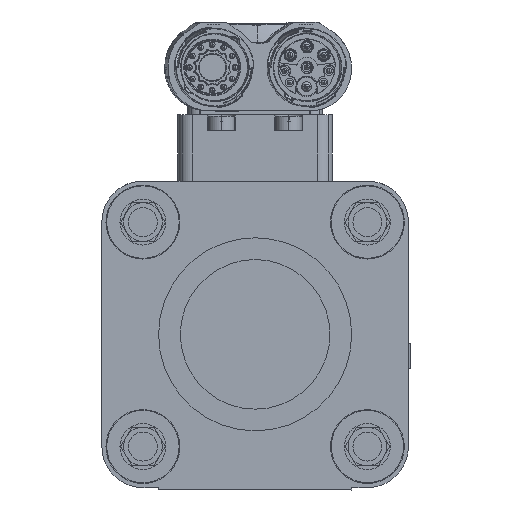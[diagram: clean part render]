
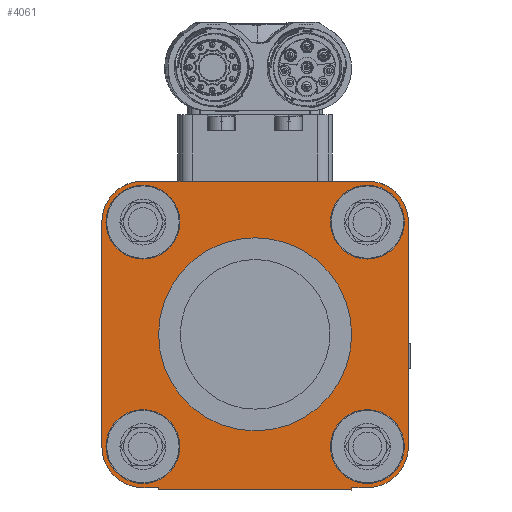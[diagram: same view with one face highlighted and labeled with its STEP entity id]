
A CAD part, left-side view. The second image highlights one B-rep face of the part: STEP entity #4061.
In plain terms, the highlighted planar face has unit normal (-1, 0, 0) as drawn and (0, 0, 1) by its records, which use the part's own axes.
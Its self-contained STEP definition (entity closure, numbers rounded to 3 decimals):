
#4061=ADVANCED_FACE('10:20',(#9207,#9208,#9209,#9210,#9211,#9212),#9213,.T.);
#9207=FACE_BOUND('',#23878,.T.);
#9208=FACE_BOUND('',#23879,.T.);
#9209=FACE_BOUND('',#23880,.T.);
#9210=FACE_BOUND('',#23881,.T.);
#9211=FACE_BOUND('',#23882,.T.);
#9212=FACE_OUTER_BOUND('',#23883,.T.);
#9213=PLANE('',#23884);
#23878=EDGE_LOOP('',(#48691,#48692));
#23879=EDGE_LOOP('',(#48693,#48694));
#23880=EDGE_LOOP('',(#48695,#48696));
#23881=EDGE_LOOP('',(#48697,#48698));
#23882=EDGE_LOOP('',(#48699,#48700));
#23883=EDGE_LOOP('',(#48701,#48702,#48703,#48704,#48705,#48706,#48707,#48708,#48709,#48710,#48711,#48712,#48713,#48714,#48715,#48716));
#23884=AXIS2_PLACEMENT_3D('',#48717,#48718,#48719);
#48691=ORIENTED_EDGE('',*,*,#62791,.F.);
#48692=ORIENTED_EDGE('',*,*,#64985,.F.);
#48693=ORIENTED_EDGE('',*,*,#64986,.F.);
#48694=ORIENTED_EDGE('',*,*,#64987,.F.);
#48695=ORIENTED_EDGE('',*,*,#64621,.F.);
#48696=ORIENTED_EDGE('',*,*,#64988,.F.);
#48697=ORIENTED_EDGE('',*,*,#64989,.F.);
#48698=ORIENTED_EDGE('',*,*,#64990,.F.);
#48699=ORIENTED_EDGE('',*,*,#64991,.F.);
#48700=ORIENTED_EDGE('',*,*,#62166,.F.);
#48701=ORIENTED_EDGE('',*,*,#64992,.F.);
#48702=ORIENTED_EDGE('',*,*,#64993,.F.);
#48703=ORIENTED_EDGE('',*,*,#62011,.F.);
#48704=ORIENTED_EDGE('',*,*,#63674,.F.);
#48705=ORIENTED_EDGE('',*,*,#64994,.F.);
#48706=ORIENTED_EDGE('',*,*,#64995,.F.);
#48707=ORIENTED_EDGE('',*,*,#64996,.F.);
#48708=ORIENTED_EDGE('',*,*,#64997,.F.);
#48709=ORIENTED_EDGE('',*,*,#64998,.F.);
#48710=ORIENTED_EDGE('',*,*,#64999,.F.);
#48711=ORIENTED_EDGE('',*,*,#65000,.F.);
#48712=ORIENTED_EDGE('',*,*,#65001,.F.);
#48713=ORIENTED_EDGE('',*,*,#60884,.F.);
#48714=ORIENTED_EDGE('',*,*,#65002,.F.);
#48715=ORIENTED_EDGE('',*,*,#63783,.F.);
#48716=ORIENTED_EDGE('',*,*,#63549,.F.);
#48717=CARTESIAN_POINT('',(0.,0.,34.0));
#48718=DIRECTION('',(0.0,0.0,1.0));
#48719=DIRECTION('',(1.0,0.0,0.0));
#60884=EDGE_CURVE('',#72764,#72766,#72767,.F.);
#62011=EDGE_CURVE('',#74811,#74813,#74814,.F.);
#62166=EDGE_CURVE('',#75088,#75090,#75091,.F.);
#62791=EDGE_CURVE('',#76219,#76215,#76221,.F.);
#63549=EDGE_CURVE('',#77582,#77584,#77585,.F.);
#63674=EDGE_CURVE('',#77803,#74811,#77805,.F.);
#63783=EDGE_CURVE('',#77584,#77995,#77997,.F.);
#64621=EDGE_CURVE('',#79516,#79512,#79518,.F.);
#64985=EDGE_CURVE('',#76215,#76219,#80174,.F.);
#64986=EDGE_CURVE('',#80175,#80176,#80177,.F.);
#64987=EDGE_CURVE('',#80176,#80175,#80178,.F.);
#64988=EDGE_CURVE('',#79512,#79516,#80179,.F.);
#64989=EDGE_CURVE('',#80180,#80181,#80182,.F.);
#64990=EDGE_CURVE('',#80181,#80180,#80183,.F.);
#64991=EDGE_CURVE('',#75090,#75088,#80184,.F.);
#64992=EDGE_CURVE('',#80185,#77582,#80186,.F.);
#64993=EDGE_CURVE('',#74813,#80185,#80187,.F.);
#64994=EDGE_CURVE('',#80188,#77803,#80189,.F.);
#64995=EDGE_CURVE('',#80190,#80188,#80191,.F.);
#64996=EDGE_CURVE('',#80192,#80190,#80193,.F.);
#64997=EDGE_CURVE('',#80194,#80192,#80195,.F.);
#64998=EDGE_CURVE('',#80196,#80194,#80197,.F.);
#64999=EDGE_CURVE('',#80198,#80196,#80199,.F.);
#65000=EDGE_CURVE('',#80200,#80198,#80201,.F.);
#65001=EDGE_CURVE('',#72766,#80200,#80202,.F.);
#65002=EDGE_CURVE('',#77995,#72764,#80203,.F.);
#72764=VERTEX_POINT('',#94144);
#72766=VERTEX_POINT('',#94147);
#72767=LINE('',#94148,#94149);
#74811=VERTEX_POINT('',#98186);
#74813=VERTEX_POINT('',#98189);
#74814=CIRCLE('',#98190,8.5);
#75088=VERTEX_POINT('',#98743);
#75090=VERTEX_POINT('',#98746);
#75091=CIRCLE('',#98747,7.65);
#76215=VERTEX_POINT('',#100888);
#76219=VERTEX_POINT('',#100893);
#76221=CIRCLE('',#100896,20.0);
#77582=VERTEX_POINT('',#103555);
#77584=VERTEX_POINT('',#103558);
#77585=CIRCLE('',#103559,8.5);
#77803=VERTEX_POINT('',#103944);
#77805=CIRCLE('',#103947,8.5);
#77995=VERTEX_POINT('',#104402);
#77997=LINE('',#104405,#104406);
#79512=VERTEX_POINT('',#107485);
#79516=VERTEX_POINT('',#107490);
#79518=CIRCLE('',#107493,7.65);
#80174=CIRCLE('',#108750,20.0);
#80175=VERTEX_POINT('',#108751);
#80176=VERTEX_POINT('',#108752);
#80177=CIRCLE('',#108753,7.65);
#80178=CIRCLE('',#108754,7.65);
#80179=CIRCLE('',#108755,7.65);
#80180=VERTEX_POINT('',#108756);
#80181=VERTEX_POINT('',#108757);
#80182=CIRCLE('',#108758,7.65);
#80183=CIRCLE('',#108759,7.65);
#80184=CIRCLE('',#108760,7.65);
#80185=VERTEX_POINT('',#108761);
#80186=CIRCLE('',#108762,8.5);
#80187=LINE('',#108763,#108764);
#80188=VERTEX_POINT('',#108765);
#80189=LINE('',#108766,#108767);
#80190=VERTEX_POINT('',#108768);
#80191=CIRCLE('',#108769,8.5);
#80192=VERTEX_POINT('',#108770);
#80193=CIRCLE('',#108771,8.5);
#80194=VERTEX_POINT('',#108772);
#80195=LINE('',#108773,#108774);
#80196=VERTEX_POINT('',#108775);
#80197=CIRCLE('',#108776,8.5);
#80198=VERTEX_POINT('',#108777);
#80199=CIRCLE('',#108778,8.5);
#80200=VERTEX_POINT('',#108779);
#80201=LINE('',#108780,#108781);
#80202=LINE('',#108782,#108783);
#80203=LINE('',#108784,#108785);
#94144=CARTESIAN_POINT('',(35.809,-45.636,34.0));
#94147=CARTESIAN_POINT('',(-4.191,-45.636,34.0));
#94148=CARTESIAN_POINT('',(7.904,-45.636,34.0));
#94149=VECTOR('',#136314,1.0);
#98186=CARTESIAN_POINT('',(45.069,15.874,34.0));
#98189=CARTESIAN_POINT('',(47.559,9.864,34.0));
#98190=AXIS2_PLACEMENT_3D('',#137746,#137747,#137748);
#98743=CARTESIAN_POINT('',(0.209,9.864,34.0));
#98746=CARTESIAN_POINT('',(-15.091,9.864,34.0));
#98747=AXIS2_PLACEMENT_3D('',#137943,#137944,#137945);
#100888=CARTESIAN_POINT('',(35.809,-13.386,34.0));
#100893=CARTESIAN_POINT('',(-4.191,-13.386,34.0));
#100896=AXIS2_PLACEMENT_3D('',#138767,#138768,#138769);
#103555=CARTESIAN_POINT('',(45.069,-42.647,34.0));
#103558=CARTESIAN_POINT('',(39.059,-45.136,34.0));
#103559=AXIS2_PLACEMENT_3D('',#139763,#139764,#139765);
#103944=CARTESIAN_POINT('',(39.059,18.364,34.0));
#103947=AXIS2_PLACEMENT_3D('',#139935,#139936,#139937);
#104402=CARTESIAN_POINT('',(35.809,-45.136,34.0));
#104405=CARTESIAN_POINT('',(7.904,-45.136,34.0));
#104406=VECTOR('',#140030,1.0);
#107485=CARTESIAN_POINT('',(0.209,-36.636,34.0));
#107490=CARTESIAN_POINT('',(-15.091,-36.636,34.0));
#107493=AXIS2_PLACEMENT_3D('',#141075,#141076,#141077);
#108750=AXIS2_PLACEMENT_3D('',#141628,#141629,#141630);
#108751=CARTESIAN_POINT('',(31.409,-36.636,34.0));
#108752=CARTESIAN_POINT('',(46.709,-36.636,34.0));
#108753=AXIS2_PLACEMENT_3D('',#141631,#141632,#141633);
#108754=AXIS2_PLACEMENT_3D('',#141634,#141635,#141636);
#108755=AXIS2_PLACEMENT_3D('',#141637,#141638,#141639);
#108756=CARTESIAN_POINT('',(31.409,9.864,34.0));
#108757=CARTESIAN_POINT('',(46.709,9.864,34.0));
#108758=AXIS2_PLACEMENT_3D('',#141640,#141641,#141642);
#108759=AXIS2_PLACEMENT_3D('',#141643,#141644,#141645);
#108760=AXIS2_PLACEMENT_3D('',#141646,#141647,#141648);
#108761=CARTESIAN_POINT('',(47.559,-36.636,34.0));
#108762=AXIS2_PLACEMENT_3D('',#141649,#141650,#141651);
#108763=CARTESIAN_POINT('',(47.559,-6.693,34.0));
#108764=VECTOR('',#141652,1.0);
#108765=CARTESIAN_POINT('',(-7.441,18.364,34.0));
#108766=CARTESIAN_POINT('',(7.904,18.364,34.0));
#108767=VECTOR('',#141653,1.0);
#108768=CARTESIAN_POINT('',(-13.451,15.874,34.0));
#108769=AXIS2_PLACEMENT_3D('',#141654,#141655,#141656);
#108770=CARTESIAN_POINT('',(-15.941,9.864,34.0));
#108771=AXIS2_PLACEMENT_3D('',#141657,#141658,#141659);
#108772=CARTESIAN_POINT('',(-15.941,-36.636,34.0));
#108773=CARTESIAN_POINT('',(-15.941,-6.693,34.0));
#108774=VECTOR('',#141660,1.0);
#108775=CARTESIAN_POINT('',(-13.451,-42.647,34.0));
#108776=AXIS2_PLACEMENT_3D('',#141661,#141662,#141663);
#108777=CARTESIAN_POINT('',(-7.441,-45.136,34.0));
#108778=AXIS2_PLACEMENT_3D('',#141664,#141665,#141666);
#108779=CARTESIAN_POINT('',(-4.191,-45.136,34.0));
#108780=CARTESIAN_POINT('',(7.904,-45.136,34.0));
#108781=VECTOR('',#141667,1.0);
#108782=CARTESIAN_POINT('',(-4.191,-22.693,34.0));
#108783=VECTOR('',#141668,1.0);
#108784=CARTESIAN_POINT('',(35.809,-22.693,34.0));
#108785=VECTOR('',#141669,1.0);
#136314=DIRECTION('',(1.0,0.0,-0.0));
#137746=CARTESIAN_POINT('',(39.059,9.864,34.0));
#137747=DIRECTION('',(0.0,-0.0,1.0));
#137748=DIRECTION('',(0.707,0.707,0.0));
#137943=CARTESIAN_POINT('',(-7.441,9.864,34.0));
#137944=DIRECTION('',(0.0,0.0,-1.0));
#137945=DIRECTION('',(1.0,0.0,0.0));
#138767=CARTESIAN_POINT('',(15.809,-13.386,34.0));
#138768=DIRECTION('',(0.0,0.0,-1.0));
#138769=DIRECTION('',(1.0,0.0,0.0));
#139763=CARTESIAN_POINT('',(39.059,-36.636,34.0));
#139764=DIRECTION('',(0.0,0.0,1.0));
#139765=DIRECTION('',(0.707,-0.707,0.0));
#139935=CARTESIAN_POINT('',(39.059,9.864,34.0));
#139936=DIRECTION('',(0.0,-0.0,1.0));
#139937=DIRECTION('',(0.707,0.707,0.0));
#140030=DIRECTION('',(1.0,0.0,-0.0));
#141075=CARTESIAN_POINT('',(-7.441,-36.636,34.0));
#141076=DIRECTION('',(0.0,0.0,-1.0));
#141077=DIRECTION('',(1.0,0.0,0.0));
#141628=CARTESIAN_POINT('',(15.809,-13.386,34.0));
#141629=DIRECTION('',(0.0,0.0,-1.0));
#141630=DIRECTION('',(1.0,0.0,0.0));
#141631=CARTESIAN_POINT('',(39.059,-36.636,34.0));
#141632=DIRECTION('',(0.0,0.0,-1.0));
#141633=DIRECTION('',(1.0,0.0,0.0));
#141634=CARTESIAN_POINT('',(39.059,-36.636,34.0));
#141635=DIRECTION('',(0.0,0.0,-1.0));
#141636=DIRECTION('',(1.0,0.0,0.0));
#141637=CARTESIAN_POINT('',(-7.441,-36.636,34.0));
#141638=DIRECTION('',(0.0,0.0,-1.0));
#141639=DIRECTION('',(1.0,0.0,0.0));
#141640=CARTESIAN_POINT('',(39.059,9.864,34.0));
#141641=DIRECTION('',(0.0,0.0,-1.0));
#141642=DIRECTION('',(1.0,0.0,0.0));
#141643=CARTESIAN_POINT('',(39.059,9.864,34.0));
#141644=DIRECTION('',(0.0,0.0,-1.0));
#141645=DIRECTION('',(1.0,0.0,0.0));
#141646=CARTESIAN_POINT('',(-7.441,9.864,34.0));
#141647=DIRECTION('',(0.0,0.0,-1.0));
#141648=DIRECTION('',(1.0,0.0,0.0));
#141649=CARTESIAN_POINT('',(39.059,-36.636,34.0));
#141650=DIRECTION('',(0.0,0.0,1.0));
#141651=DIRECTION('',(0.707,-0.707,0.0));
#141652=DIRECTION('',(-0.0,1.0,0.0));
#141653=DIRECTION('',(-1.0,0.0,0.0));
#141654=CARTESIAN_POINT('',(-7.441,9.864,34.0));
#141655=DIRECTION('',(0.0,0.0,1.0));
#141656=DIRECTION('',(-0.707,0.707,0.0));
#141657=CARTESIAN_POINT('',(-7.441,9.864,34.0));
#141658=DIRECTION('',(0.0,0.0,1.0));
#141659=DIRECTION('',(-0.707,0.707,0.0));
#141660=DIRECTION('',(0.0,-1.0,0.0));
#141661=CARTESIAN_POINT('',(-7.441,-36.636,34.0));
#141662=DIRECTION('',(0.0,0.0,1.0));
#141663=DIRECTION('',(-0.707,-0.707,0.0));
#141664=CARTESIAN_POINT('',(-7.441,-36.636,34.0));
#141665=DIRECTION('',(0.0,0.0,1.0));
#141666=DIRECTION('',(-0.707,-0.707,0.0));
#141667=DIRECTION('',(1.0,0.0,-0.0));
#141668=DIRECTION('',(0.0,-1.0,0.0));
#141669=DIRECTION('',(-0.0,1.0,0.0));
